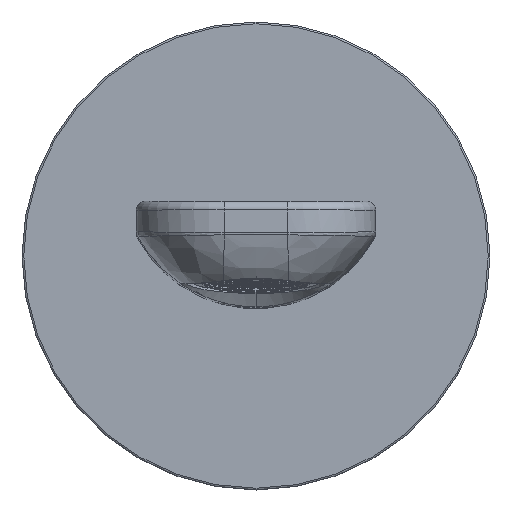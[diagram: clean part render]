
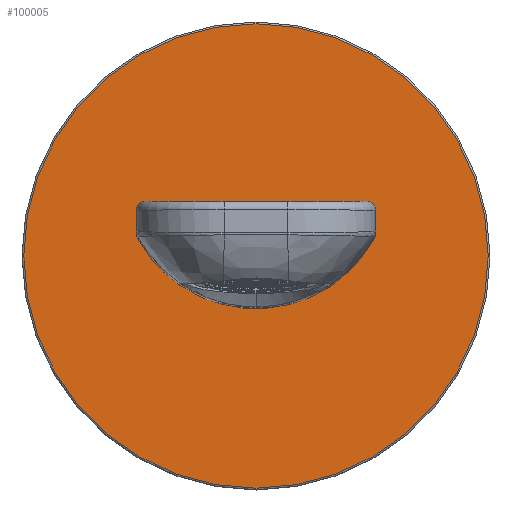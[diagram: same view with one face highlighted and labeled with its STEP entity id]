
A CAD part, top view. The second image highlights one B-rep face of the part: STEP entity #100005.
In plain terms, the highlighted planar face has unit normal (0, 0, 1).
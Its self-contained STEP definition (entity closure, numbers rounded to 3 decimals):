
#1461=CARTESIAN_POINT('',(20.267,-0.466,0.));
#1462=CARTESIAN_POINT('',(18.295,-4.084,0.));
#1463=CARTESIAN_POINT('',(12.36,-10.235,0.));
#1464=CARTESIAN_POINT('',(0.,-13.632,0.));
#1465=CARTESIAN_POINT('',(-12.36,-10.235,0.));
#1466=CARTESIAN_POINT('',(-18.295,-4.084,
0.));
#1467=CARTESIAN_POINT('',(-20.267,-0.466,0.));
#1573=CARTESIAN_POINT('',(-18.95,0.252,0.));
#1574=DIRECTION('',(0.,0.,-1.));
#1575=DIRECTION('',(-0.878,-0.479,0.));
#1576=AXIS2_PLACEMENT_3D('',#1573,#1574,#1575);
#1588=CARTESIAN_POINT('',(0.,-3.5,0.));
#1589=DIRECTION('',(0.,0.,1.));
#1590=DIRECTION('',(-1.,0.,0.));
#1591=AXIS2_PLACEMENT_3D('',#1588,#1589,#1590);
#1593=CARTESIAN_POINT('',(0.,-3.5,0.));
#1594=DIRECTION('',(0.,0.,1.));
#1595=DIRECTION('',(1.,0.,0.));
#1596=AXIS2_PLACEMENT_3D('',#1593,#1594,#1595);
#65285=DIRECTION('',(0.,1.,0.));
#65286=VECTOR('',#65285,3.748);
#65287=CARTESIAN_POINT('',(20.45,0.252,0.));
#65288=LINE('',#65287,#65286);
#65297=CARTESIAN_POINT('',(18.95,0.252,0.));
#65298=DIRECTION('',(0.,0.,-1.));
#65299=DIRECTION('',(1.,0.,0.));
#65300=AXIS2_PLACEMENT_3D('',#65297,#65298,#65299);
#65405=DIRECTION('',(-1.,0.,0.));
#65406=VECTOR('',#65405,37.9);
#65407=CARTESIAN_POINT('',(18.95,5.5,0.));
#65408=LINE('',#65407,#65406);
#65431=CARTESIAN_POINT('',(18.95,4.,0.));
#65432=DIRECTION('',(0.,0.,-1.));
#65433=DIRECTION('',(0.,1.,0.));
#65434=AXIS2_PLACEMENT_3D('',#65431,#65432,#65433);
#65497=CARTESIAN_POINT('',(-18.95,4.,0.));
#65498=DIRECTION('',(0.,0.,1.));
#65499=DIRECTION('',(0.,1.,0.));
#65500=AXIS2_PLACEMENT_3D('',#65497,#65498,#65499);
#65502=DIRECTION('',(0.,-1.,0.));
#65503=VECTOR('',#65502,3.748);
#65504=CARTESIAN_POINT('',(-20.45,4.,0.));
#65505=LINE('',#65504,#65503);
#82792=CARTESIAN_POINT('',(-39.7,-3.5,0.));
#82793=CARTESIAN_POINT('',(39.7,-3.5,0.));
#82794=VERTEX_POINT('',#82792);
#82795=VERTEX_POINT('',#82793);
#82812=CARTESIAN_POINT('',(20.45,0.252,0.));
#82813=CARTESIAN_POINT('',(20.45,4.,0.));
#82814=VERTEX_POINT('',#82812);
#82815=VERTEX_POINT('',#82813);
#82816=CARTESIAN_POINT('',(18.95,5.5,0.));
#82817=CARTESIAN_POINT('',(-18.95,5.5,0.));
#82818=VERTEX_POINT('',#82816);
#82819=VERTEX_POINT('',#82817);
#82820=CARTESIAN_POINT('',(-20.45,4.,0.));
#82821=CARTESIAN_POINT('',(-20.45,0.252,0.));
#82822=VERTEX_POINT('',#82820);
#82823=VERTEX_POINT('',#82821);
#82824=VERTEX_POINT('',#1461);
#82825=VERTEX_POINT('',#1467);
#99978=CARTESIAN_POINT('',(0.,-3.5,0.));
#99979=DIRECTION('',(0.,0.,1.));
#99980=DIRECTION('',(-1.,0.,0.));
#99981=AXIS2_PLACEMENT_3D('',#99978,#99979,#99980);
#99982=PLANE('',#99981);
#99984=ORIENTED_EDGE('',*,*,#99983,.F.);
#99986=ORIENTED_EDGE('',*,*,#99985,.F.);
#99987=EDGE_LOOP('',(#99984,#99986));
#99988=FACE_OUTER_BOUND('',#99987,.F.);
#99990=ORIENTED_EDGE('',*,*,#99989,.T.);
#99992=ORIENTED_EDGE('',*,*,#99991,.F.);
#99994=ORIENTED_EDGE('',*,*,#99993,.T.);
#99996=ORIENTED_EDGE('',*,*,#99995,.T.);
#99998=ORIENTED_EDGE('',*,*,#99997,.T.);
#99999=ORIENTED_EDGE('',*,*,#99968,.F.);
#100000=ORIENTED_EDGE('',*,*,#99934,.F.);
#100002=ORIENTED_EDGE('',*,*,#100001,.F.);
#100003=EDGE_LOOP('',(#99990,#99992,#99994,#99996,#99998,#99999,#100000,
#100002));
#100004=FACE_BOUND('',#100003,.F.);
#100005=ADVANCED_FACE('',(#99988,#100004),#99982,.T.);
#1468=B_SPLINE_CURVE_WITH_KNOTS('',3,(#1461,#1462,#1463,#1464,#1465,#1466,
#1467),.UNSPECIFIED.,.F.,.F.,(4,1,1,1,4),(0.,0.25,0.5,0.75,1.),
.UNSPECIFIED.);
#1577=CIRCLE('',#1576,1.5);
#1592=CIRCLE('',#1591,39.7);
#1597=CIRCLE('',#1596,39.7);
#65301=CIRCLE('',#65300,1.5);
#65435=CIRCLE('',#65434,1.5);
#65501=CIRCLE('',#65500,1.5);
#99934=EDGE_CURVE('',#82824,#82825,#1468,.T.);
#99968=EDGE_CURVE('',#82825,#82823,#1577,.T.);
#99983=EDGE_CURVE('',#82794,#82795,#1592,.T.);
#99985=EDGE_CURVE('',#82795,#82794,#1597,.T.);
#99989=EDGE_CURVE('',#82814,#82815,#65288,.T.);
#99991=EDGE_CURVE('',#82818,#82815,#65435,.T.);
#99993=EDGE_CURVE('',#82818,#82819,#65408,.T.);
#99995=EDGE_CURVE('',#82819,#82822,#65501,.T.);
#99997=EDGE_CURVE('',#82822,#82823,#65505,.T.);
#100001=EDGE_CURVE('',#82814,#82824,#65301,.T.);
